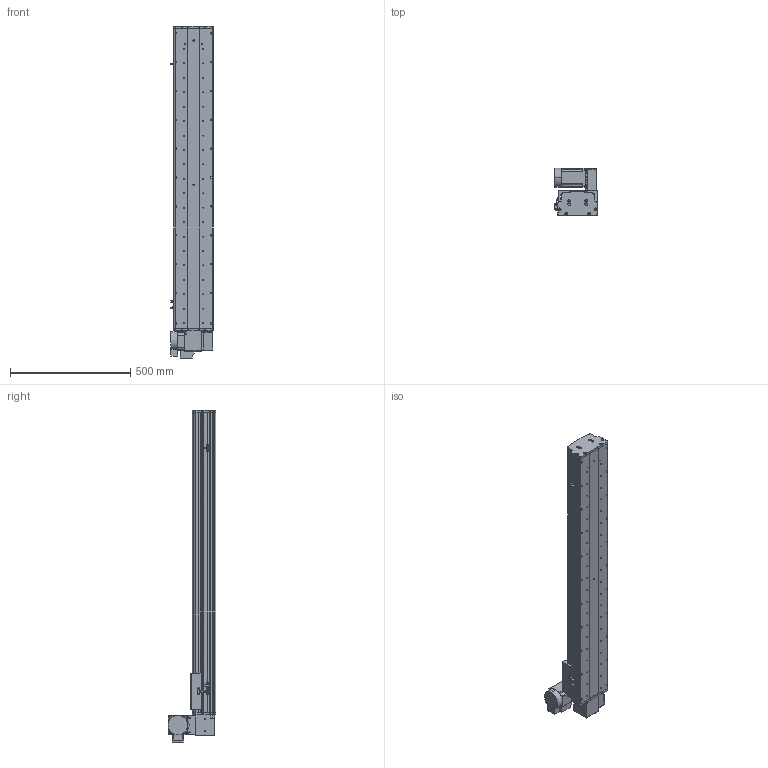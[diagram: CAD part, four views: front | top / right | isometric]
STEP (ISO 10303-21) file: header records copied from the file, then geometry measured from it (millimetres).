
FILE_DESCRIPTION (( 'STEP AP214' ), '1' );
FILE_NAME ('KSD165B-S1000-MRU-CM.STEP', '2017-10-17T02:36:59', ( '微软用户' ), ( '微软中国' ), 'SwSTEP 2.0', 'SolidWorks 2014', '' );
FILE_SCHEMA (( 'AUTOMOTIVE_DESIGN' ));
Length unit declared in the file: millimetre
Products named in the file (17): KSD165模组同步带-防撞垫1; KSD165模组-同步带滑动座-最新版; KSD165耀郪-ヶ傷啣1-肮祭湍; KSD165模组-后端板1-同步带; KSD165B-S1000-MRU-CM; 130宽模组马达安装板连板上下折丝杆同步带; 130宽模组保护罩上下左右折-同步带; HTPA26S5M250-A-H8 750W萇儂蚚; HTPA26S5M250-A-H8 400W萇儂蚚 ; KSD165模组-同步带防尘盖1-1000行程; KSD165模组同步带底板-1000行程; 拸秶雄ん750W侜督萇儂; 165宽马达安装板同步带右; U倰嫖萇假蚾璃; U倰嫖萇EEㄜSX672; 覜茼え68遵圉猾敕; KSD165模组-同步带-防撞垫2
Assembly tree (20 placements, depth 2):
  KSD165B-S1000-MRU-CM
    KSD165模组-后端板1-同步带
    KSD165耀郪-ヶ傷啣1-肮祭湍
    KSD165模组-同步带滑动座-最新版
    KSD165模组同步带-防撞垫1
    KSD165模组-同步带-防撞垫2
    覜茼え68遵圉猾敕
    U倰嫖萇EEㄜSX672  x3
    U倰嫖萇假蚾璃  x3
    165宽马达安装板同步带右
    拸秶雄ん750W侜督萇儂
    KSD165模组同步带底板-1000行程
    KSD165模组-同步带防尘盖1-1000行程
    HTPA26S5M250-A-H8 400W萇儂蚚 
    HTPA26S5M250-A-H8 750W萇儂蚚
    130宽模组保护罩上下左右折-同步带
    130宽模组马达安装板连板上下折丝杆同步带
Bounding box: 178.7 x 198 x 1380.5 mm (x, y, z)
Volume: 7916382.2 mm3; surface area: 1840841.4 mm2
Topology: 21 solids, 21 shells, 1975 faces, 5580 edges, 3644 vertices
Faces by surface type: cylinder 1275, plane 588, cone 112
Entity records: 64292 total; most frequent: CARTESIAN_POINT 13180, DIRECTION 10552, ORIENTED_EDGE 9820, EDGE_CURVE 4910, AXIS2_PLACEMENT_3D 4142, VERTEX_POINT 3236, CIRCLE 2364, LINE 2268
